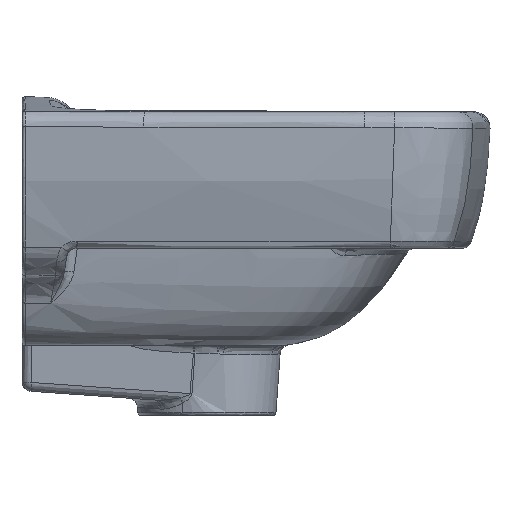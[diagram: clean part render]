
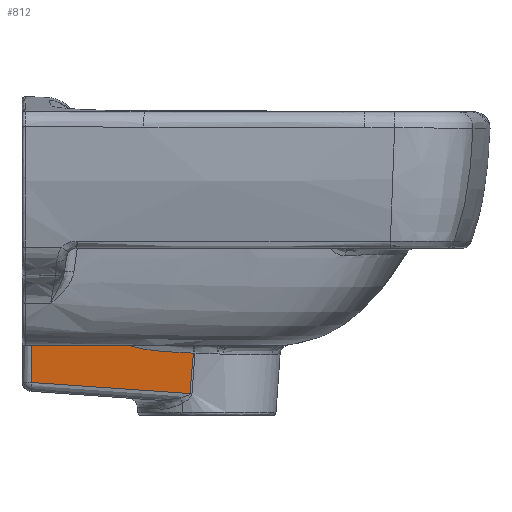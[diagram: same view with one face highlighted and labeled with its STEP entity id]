
A CAD part, left-side view. The second image highlights one B-rep face of the part: STEP entity #812.
In plain terms, the highlighted free-form (B-spline) face has degree [1, 1] with [3, 2] control points.
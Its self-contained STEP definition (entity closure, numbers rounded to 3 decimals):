
#177=B_SPLINE_SURFACE_WITH_KNOTS('',1,1,((#26308,#26309),(#26310,#26311),
(#26312,#26313)),.UNSPECIFIED.,.F.,.F.,.F.,(2,1,2),(2,2),(0.,0.157,
1.),(0.,1.),.UNSPECIFIED.);
#812=ADVANCED_FACE('',(#1122),#177,.F.);
#1122=FACE_OUTER_BOUND('',#1419,.T.);
#1419=EDGE_LOOP('',(#2619,#2620,#2621,#2622,#2623,#2624,#2625));
#2619=ORIENTED_EDGE('',*,*,#3818,.T.);
#2620=ORIENTED_EDGE('',*,*,#3750,.T.);
#2621=ORIENTED_EDGE('',*,*,#3778,.T.);
#2622=ORIENTED_EDGE('',*,*,#3785,.T.);
#2623=ORIENTED_EDGE('',*,*,#3791,.T.);
#2624=ORIENTED_EDGE('',*,*,#3768,.T.);
#2625=ORIENTED_EDGE('',*,*,#3811,.T.);
#3156=VERTEX_POINT('',#22882);
#3158=VERTEX_POINT('',#22927);
#3169=VERTEX_POINT('',#23051);
#3172=VERTEX_POINT('',#23080);
#3178=VERTEX_POINT('',#23184);
#3183=VERTEX_POINT('',#23246);
#3196=VERTEX_POINT('',#23742);
#3750=EDGE_CURVE('',#3156,#3158,#4329,.T.);
#3768=EDGE_CURVE('',#3169,#3172,#4340,.T.);
#3778=EDGE_CURVE('',#3158,#3178,#4347,.T.);
#3785=EDGE_CURVE('',#3178,#3183,#4353,.T.);
#3791=EDGE_CURVE('',#3183,#3169,#4359,.T.);
#3811=EDGE_CURVE('',#3172,#3196,#4376,.T.);
#3818=EDGE_CURVE('',#3196,#3156,#4380,.T.);
#4329=B_SPLINE_CURVE_WITH_KNOTS('',3,(#22929,#22930,#22931,#22932),
 .UNSPECIFIED.,.F.,.F.,(4,4),(0.,1.),.UNSPECIFIED.);
#4340=B_SPLINE_CURVE_WITH_KNOTS('',3,(#23081,#23082,#23083,#23084),
 .UNSPECIFIED.,.F.,.F.,(4,4),(0.,1.),.UNSPECIFIED.);
#4347=B_SPLINE_CURVE_WITH_KNOTS('',3,(#23178,#23179,#23180,#23181,#23182,
#23183),.UNSPECIFIED.,.F.,.F.,(4,2,4),(0.,0.5,1.),.UNSPECIFIED.);
#4353=B_SPLINE_CURVE_WITH_KNOTS('',3,(#23247,#23248,#23249,#23250,#23251,
#23252,#23253,#23254,#23255,#23256,#23257,#23258,#23259,#23260),
 .UNSPECIFIED.,.F.,.F.,(4,2,2,2,2,2,4),(0.,0.125,0.25,0.375,0.5,0.75,1.),
 .UNSPECIFIED.);
#4359=B_SPLINE_CURVE_WITH_KNOTS('',3,(#23396,#23397,#23398,#23399,#23400,
#23401,#23402),.UNSPECIFIED.,.F.,.F.,(4,3,4),(0.,0.,1.),
 .UNSPECIFIED.);
#4376=B_SPLINE_CURVE_WITH_KNOTS('',1,(#23740,#23741),.UNSPECIFIED.,.F.,
 .F.,(2,2),(0.,1.),.UNSPECIFIED.);
#4380=B_SPLINE_CURVE_WITH_KNOTS('',3,(#23795,#23796,#23797,#23798,#23799,
#23800,#23801,#23802,#23803,#23804),.UNSPECIFIED.,.F.,.F.,(4,3,3,4),(0.,
0.061,0.553,1.),.UNSPECIFIED.);
#22882=CARTESIAN_POINT('',(-35.166,-86.102,-144.39));
#22927=CARTESIAN_POINT('',(-36.978,-87.872,-123.681));
#22929=CARTESIAN_POINT('',(-35.166,-86.102,-144.39));
#22930=CARTESIAN_POINT('',(-35.771,-86.61,-137.48));
#22931=CARTESIAN_POINT('',(-36.375,-87.179,-130.575));
#22932=CARTESIAN_POINT('',(-36.978,-87.872,-123.681));
#23051=CARTESIAN_POINT('',(-44.652,-15.067,-35.969));
#23080=CARTESIAN_POINT('',(-44.697,-5.,-35.456));
#23081=CARTESIAN_POINT('',(-44.652,-15.067,-35.969));
#23082=CARTESIAN_POINT('',(-44.667,-11.711,-35.793));
#23083=CARTESIAN_POINT('',(-44.682,-8.356,-35.62));
#23084=CARTESIAN_POINT('',(-44.697,-5.,-35.456));
#23178=CARTESIAN_POINT('',(-36.978,-87.872,-123.681));
#23179=CARTESIAN_POINT('',(-36.988,-82.587,-123.568));
#23180=CARTESIAN_POINT('',(-37.011,-77.318,-123.306));
#23181=CARTESIAN_POINT('',(-37.093,-66.824,-122.365));
#23182=CARTESIAN_POINT('',(-37.152,-61.6,-121.69));
#23183=CARTESIAN_POINT('',(-37.273,-56.451,-120.307));
#23184=CARTESIAN_POINT('',(-37.273,-56.451,-120.306));
#23246=CARTESIAN_POINT('',(-43.826,-15.571,-45.403));
#23247=CARTESIAN_POINT('',(-37.273,-56.451,-120.304));
#23248=CARTESIAN_POINT('',(-37.361,-52.704,-119.297));
#23249=CARTESIAN_POINT('',(-37.48,-49.111,-117.94));
#23250=CARTESIAN_POINT('',(-37.794,-42.309,-114.354));
#23251=CARTESIAN_POINT('',(-37.992,-39.106,-112.092));
#23252=CARTESIAN_POINT('',(-38.449,-33.508,-106.865));
#23253=CARTESIAN_POINT('',(-38.714,-31.036,-103.836));
#23254=CARTESIAN_POINT('',(-39.279,-26.879,-97.377));
#23255=CARTESIAN_POINT('',(-39.579,-25.17,-93.946));
#23256=CARTESIAN_POINT('',(-40.516,-20.798,-83.243));
#23257=CARTESIAN_POINT('',(-41.167,-19.002,-75.799));
#23258=CARTESIAN_POINT('',(-42.486,-16.605,-60.728));
#23259=CARTESIAN_POINT('',(-43.156,-16.016,-53.06));
#23260=CARTESIAN_POINT('',(-43.826,-15.571,-45.403));
#23396=CARTESIAN_POINT('',(-43.826,-15.571,-45.403));
#23397=CARTESIAN_POINT('',(-43.826,-15.571,-45.403));
#23398=CARTESIAN_POINT('',(-43.826,-15.571,-45.402));
#23399=CARTESIAN_POINT('',(-43.827,-15.571,-45.401));
#23400=CARTESIAN_POINT('',(-44.102,-15.389,-42.258));
#23401=CARTESIAN_POINT('',(-44.377,-15.222,-39.114));
#23402=CARTESIAN_POINT('',(-44.652,-15.067,-35.969));
#23740=CARTESIAN_POINT('',(-44.697,-5.,-35.456));
#23741=CARTESIAN_POINT('',(-35.662,-5.,-138.719));
#23742=CARTESIAN_POINT('',(-35.662,-5.,-138.719));
#23795=CARTESIAN_POINT('',(-35.662,-5.,-138.719));
#23796=CARTESIAN_POINT('',(-35.652,-6.658,-138.835));
#23797=CARTESIAN_POINT('',(-35.642,-8.317,-138.951));
#23798=CARTESIAN_POINT('',(-35.632,-9.975,-139.067));
#23799=CARTESIAN_POINT('',(-35.551,-23.276,-139.997));
#23800=CARTESIAN_POINT('',(-35.469,-36.577,-140.927));
#23801=CARTESIAN_POINT('',(-35.388,-49.877,-141.857));
#23802=CARTESIAN_POINT('',(-35.314,-61.952,-142.701));
#23803=CARTESIAN_POINT('',(-35.24,-74.027,-143.546));
#23804=CARTESIAN_POINT('',(-35.166,-86.102,-144.39));
#26308=CARTESIAN_POINT('',(-50.22,-114.947,27.679));
#26309=CARTESIAN_POINT('',(-50.22,31.664,27.679));
#26310=CARTESIAN_POINT('',(-47.409,-114.947,-4.45));
#26311=CARTESIAN_POINT('',(-47.409,31.664,-4.45));
#26312=CARTESIAN_POINT('',(-32.356,-114.947,-176.513));
#26313=CARTESIAN_POINT('',(-32.356,31.664,-176.513));
